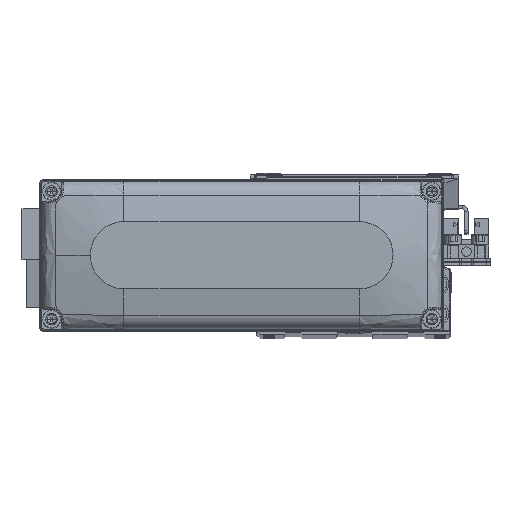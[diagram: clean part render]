
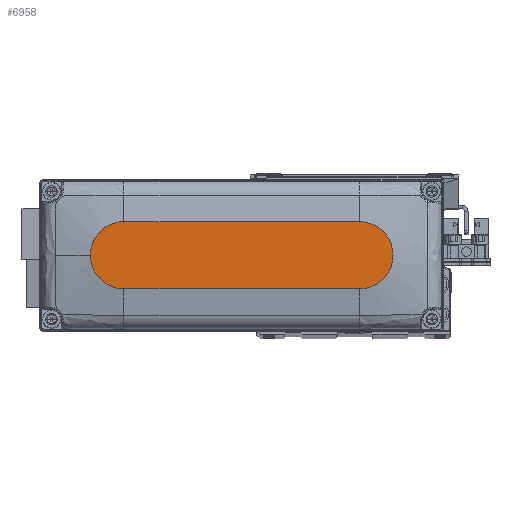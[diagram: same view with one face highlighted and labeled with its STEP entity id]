
A CAD part, top view. The second image highlights one B-rep face of the part: STEP entity #6958.
In plain terms, the highlighted planar face has unit normal (0, 0, 1).
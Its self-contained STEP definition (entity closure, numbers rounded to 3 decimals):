
#842 = FACE_OUTER_BOUND ( 'NONE', #40610, .T. ) ;
#3259 = CARTESIAN_POINT ( 'NONE',  ( 35., 0., 28. ) ) ;
#5015 = ORIENTED_EDGE ( 'NONE', *, *, #17713, .T. ) ;
#5630 = AXIS2_PLACEMENT_3D ( 'NONE', #38204, #7663, #21265 ) ;
#5800 = CARTESIAN_POINT ( 'NONE',  ( 35., 0., 28. ) ) ;
#6691 = DIRECTION ( 'NONE',  ( -1., 0., 0. ) ) ;
#6958 = ADVANCED_FACE ( 'NONE', ( #842 ), #14473, .T. ) ;
#7663 = DIRECTION ( 'NONE',  ( 0., 0., 1. ) ) ;
#8541 = ORIENTED_EDGE ( 'NONE', *, *, #26455, .T. ) ;
#9106 = EDGE_CURVE ( 'NONE', #33310, #19126, #35110, .T. ) ;
#10198 = CARTESIAN_POINT ( 'NONE',  ( -35., -10., 28. ) ) ;
#11126 = DIRECTION ( 'NONE',  ( 1., 0., 0. ) ) ;
#11257 = EDGE_CURVE ( 'NONE', #18373, #33310, #42597, .T. ) ;
#11413 = EDGE_CURVE ( 'NONE', #19359, #42367, #23644, .T. ) ;
#12073 = CARTESIAN_POINT ( 'NONE',  ( -35., -10., 28. ) ) ;
#13594 = ORIENTED_EDGE ( 'NONE', *, *, #11413, .T. ) ;
#13605 = AXIS2_PLACEMENT_3D ( 'NONE', #28063, #41657, #11126 ) ;
#13801 = ORIENTED_EDGE ( 'NONE', *, *, #9106, .T. ) ;
#14473 = PLANE ( 'NONE',  #13605 ) ;
#15893 = AXIS2_PLACEMENT_3D ( 'NONE', #5800, #19430, #33019 ) ;
#16885 = DIRECTION ( 'NONE',  ( 0., 0., 1. ) ) ;
#17713 = EDGE_CURVE ( 'NONE', #19126, #19359, #40363, .T. ) ;
#18136 = CARTESIAN_POINT ( 'NONE',  ( 35., -10., 28. ) ) ;
#18373 = VERTEX_POINT ( 'NONE', #10198 ) ;
#19126 = VERTEX_POINT ( 'NONE', #23029 ) ;
#19359 = VERTEX_POINT ( 'NONE', #25217 ) ;
#19430 = DIRECTION ( 'NONE',  ( 0., 0., 1. ) ) ;
#21043 = CARTESIAN_POINT ( 'NONE',  ( -35., 10., 28. ) ) ;
#21149 = AXIS2_PLACEMENT_3D ( 'NONE', #3259, #16885, #30469 ) ;
#21265 = DIRECTION ( 'NONE',  ( 1., 0., 0. ) ) ;
#21738 = VECTOR ( 'NONE', #6691, 1000. ) ;
#23029 = CARTESIAN_POINT ( 'NONE',  ( 45., 0., 28. ) ) ;
#23644 = LINE ( 'NONE', #37232, #21738 ) ;
#24859 = CIRCLE ( 'NONE', #5630, 10. ) ;
#25217 = CARTESIAN_POINT ( 'NONE',  ( 35., 10., 28. ) ) ;
#25663 = DIRECTION ( 'NONE',  ( 1., 0., 0. ) ) ;
#26455 = EDGE_CURVE ( 'NONE', #42367, #18373, #24859, .T. ) ;
#28063 = CARTESIAN_POINT ( 'NONE',  ( 0., 0., 28. ) ) ;
#30469 = DIRECTION ( 'NONE',  ( 1., 0., 0. ) ) ;
#33019 = DIRECTION ( 'NONE',  ( 1., 0., 0. ) ) ;
#33310 = VERTEX_POINT ( 'NONE', #18136 ) ;
#35110 = CIRCLE ( 'NONE', #15893, 10. ) ;
#37232 = CARTESIAN_POINT ( 'NONE',  ( -35., 10., 28. ) ) ;
#38204 = CARTESIAN_POINT ( 'NONE',  ( -35., 0., 28. ) ) ;
#38659 = ORIENTED_EDGE ( 'NONE', *, *, #11257, .T. ) ;
#40363 = CIRCLE ( 'NONE', #21149, 10. ) ;
#40610 = EDGE_LOOP ( 'NONE', ( #13594, #8541, #38659, #13801, #5015 ) ) ;
#41649 = VECTOR ( 'NONE', #25663, 1000. ) ;
#41657 = DIRECTION ( 'NONE',  ( 0., 0., 1. ) ) ;
#42367 = VERTEX_POINT ( 'NONE', #21043 ) ;
#42597 = LINE ( 'NONE', #12073, #41649 ) ;
